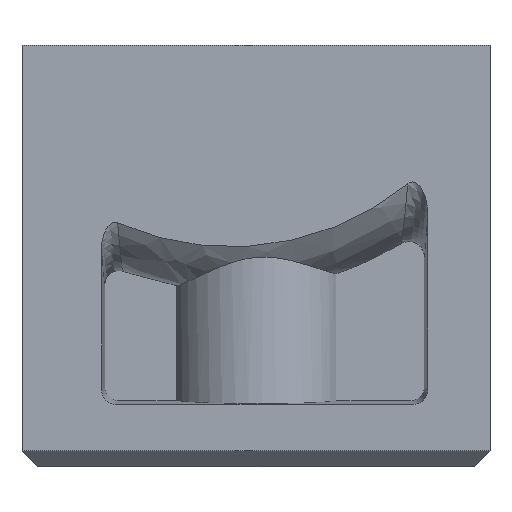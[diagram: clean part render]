
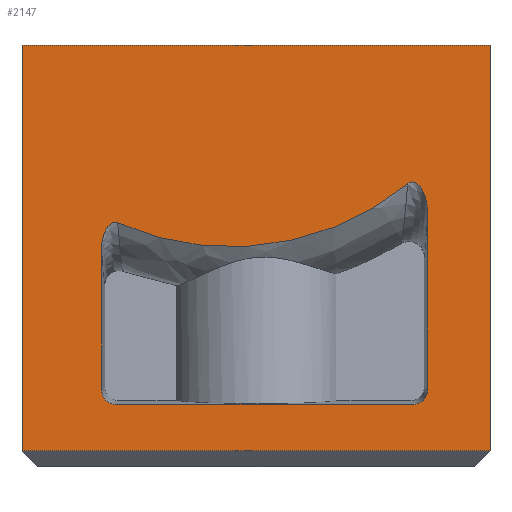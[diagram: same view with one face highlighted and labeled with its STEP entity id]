
A CAD part, front view. The second image highlights one B-rep face of the part: STEP entity #2147.
In plain terms, the highlighted planar face has unit normal (0, -1, 0).
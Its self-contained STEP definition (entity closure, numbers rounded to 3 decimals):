
#165=DIRECTION('',(-1.,0.,0.));
#166=VECTOR('',#165,30.);
#167=CARTESIAN_POINT('',(26.9,-6.,-21.));
#168=LINE('',#167,#166);
#169=DIRECTION('',(0.,0.,-1.));
#170=VECTOR('',#169,26.);
#171=CARTESIAN_POINT('',(26.9,-6.,5.));
#172=LINE('',#171,#170);
#173=CARTESIAN_POINT('',(3.034,-6.,-6.373));
#174=CARTESIAN_POINT('',(3.01,-6.,-6.362));
#175=CARTESIAN_POINT('',(2.961,-6.,-6.345));
#176=CARTESIAN_POINT('',(2.892,-6.,-6.333));
#177=CARTESIAN_POINT('',(2.824,-6.,-6.333));
#178=CARTESIAN_POINT('',(2.755,-6.,-6.346));
#179=CARTESIAN_POINT('',(2.685,-6.,-6.371));
#180=CARTESIAN_POINT('',(2.613,-6.,-6.411));
#181=CARTESIAN_POINT('',(2.537,-6.,-6.468));
#182=CARTESIAN_POINT('',(2.461,-6.,-6.544));
#183=CARTESIAN_POINT('',(2.384,-6.,-6.639));
#184=CARTESIAN_POINT('',(2.31,-6.,-6.753));
#185=CARTESIAN_POINT('',(2.237,-6.,-6.89));
#186=CARTESIAN_POINT('',(2.167,-6.,-7.05));
#187=CARTESIAN_POINT('',(2.104,-6.,-7.235));
#188=CARTESIAN_POINT('',(2.048,-6.,-7.455));
#189=CARTESIAN_POINT('',(2.01,-6.,-7.703));
#190=CARTESIAN_POINT('',(2.,-6.,-7.874));
#191=CARTESIAN_POINT('',(2.,-6.,-7.963));
#193=DIRECTION('',(0.,0.,-1.));
#194=VECTOR('',#193,9.138);
#195=CARTESIAN_POINT('',(2.,-6.,-7.963));
#196=LINE('',#195,#194);
#197=DIRECTION('',(1.,0.,0.));
#198=VECTOR('',#197,19.102);
#199=CARTESIAN_POINT('',(2.899,-6.,-18.));
#200=LINE('',#199,#198);
#201=DIRECTION('',(0.,0.,1.));
#202=VECTOR('',#201,11.379);
#203=CARTESIAN_POINT('',(22.9,-6.,-17.101));
#204=LINE('',#203,#202);
#209=DIRECTION('',(0.,0.,-1.));
#210=VECTOR('',#209,26.);
#211=CARTESIAN_POINT('',(-3.1,-6.,5.));
#212=LINE('',#211,#210);
#336=DIRECTION('',(-1.,0.,0.));
#337=VECTOR('',#336,30.);
#338=CARTESIAN_POINT('',(26.9,-6.,5.));
#339=LINE('',#338,#337);
#1483=CARTESIAN_POINT('',(3.034,-6.,
-6.373));
#1484=CARTESIAN_POINT('',(3.702,-6.,
-6.671));
#1485=CARTESIAN_POINT('',(5.063,-6.,
-7.181));
#1486=CARTESIAN_POINT('',(7.186,-6.,
-7.691));
#1487=CARTESIAN_POINT('',(9.369,-6.,
-7.938));
#1488=CARTESIAN_POINT('',(11.542,-6.,
-7.916));
#1489=CARTESIAN_POINT('',(13.705,-6.,
-7.633));
#1490=CARTESIAN_POINT('',(15.854,-6.,
-7.076));
#1491=CARTESIAN_POINT('',(17.899,-6.,
-6.268));
#1492=CARTESIAN_POINT('',(19.845,-6.,
-5.21));
#1493=CARTESIAN_POINT('',(21.047,-6.,
-4.352));
#1494=CARTESIAN_POINT('',(21.625,-6.,
-3.883));
#1552=CARTESIAN_POINT('',(21.625,-6.,
-3.883));
#1553=CARTESIAN_POINT('',(21.652,-6.,
-3.861));
#1554=CARTESIAN_POINT('',(21.705,-6.,
-3.824));
#1555=CARTESIAN_POINT('',(21.78,-6.,
-3.786));
#1556=CARTESIAN_POINT('',(21.852,-6.,
-3.762));
#1557=CARTESIAN_POINT('',(21.921,-6.,
-3.752));
#1558=CARTESIAN_POINT('',(21.988,-6.,
-3.753));
#1559=CARTESIAN_POINT('',(22.056,-6.,
-3.766));
#1560=CARTESIAN_POINT('',(22.127,-6.,
-3.792));
#1561=CARTESIAN_POINT('',(22.201,-6.,
-3.834));
#1562=CARTESIAN_POINT('',(22.278,-6.,
-3.893));
#1563=CARTESIAN_POINT('',(22.356,-6.,
-3.971));
#1564=CARTESIAN_POINT('',(22.434,-6.,
-4.068));
#1565=CARTESIAN_POINT('',(22.511,-6.,
-4.185));
#1566=CARTESIAN_POINT('',(22.587,-6.,
-4.323));
#1567=CARTESIAN_POINT('',(22.66,-6.,
-4.483));
#1568=CARTESIAN_POINT('',(22.73,-6.,
-4.67));
#1569=CARTESIAN_POINT('',(22.794,-6.,
-4.883));
#1570=CARTESIAN_POINT('',(22.85,-6.,
-5.132));
#1571=CARTESIAN_POINT('',(22.89,-6.,
-5.416));
#1572=CARTESIAN_POINT('',(22.9,-6.,
-5.617));
#1573=CARTESIAN_POINT('',(22.9,-6.,
-5.722));
#1604=CARTESIAN_POINT('',(22.9,-6.,
-17.101));
#1605=CARTESIAN_POINT('',(22.9,-6.,
-17.182));
#1606=CARTESIAN_POINT('',(22.879,-6.,
-17.336));
#1607=CARTESIAN_POINT('',(22.789,-6.,
-17.556));
#1608=CARTESIAN_POINT('',(22.644,-6.,
-17.744));
#1609=CARTESIAN_POINT('',(22.456,-6.,
-17.889));
#1610=CARTESIAN_POINT('',(22.236,-6.,
-17.979));
#1611=CARTESIAN_POINT('',(22.082,-6.,
-18.));
#1612=CARTESIAN_POINT('',(22.001,-6.,
-18.));
#1640=CARTESIAN_POINT('',(2.899,-6.,
-18.));
#1641=CARTESIAN_POINT('',(2.818,-6.,
-18.));
#1642=CARTESIAN_POINT('',(2.664,-6.,
-17.979));
#1643=CARTESIAN_POINT('',(2.444,-6.,
-17.889));
#1644=CARTESIAN_POINT('',(2.256,-6.,
-17.744));
#1645=CARTESIAN_POINT('',(2.111,-6.,
-17.556));
#1646=CARTESIAN_POINT('',(2.021,-6.,
-17.336));
#1647=CARTESIAN_POINT('',(2.,-6.,
-17.182));
#1648=CARTESIAN_POINT('',(2.,-6.,
-17.101));
#1801=CARTESIAN_POINT('',(-3.1,-6.,-21.));
#1802=VERTEX_POINT('',#1801);
#1805=CARTESIAN_POINT('',(26.9,-6.,-21.));
#1806=VERTEX_POINT('',#1805);
#1807=CARTESIAN_POINT('',(-3.1,-6.,5.));
#1808=VERTEX_POINT('',#1807);
#1809=CARTESIAN_POINT('',(26.9,-6.,5.));
#1810=VERTEX_POINT('',#1809);
#1811=VERTEX_POINT('',#1483);
#1812=VERTEX_POINT('',#1494);
#1813=VERTEX_POINT('',#191);
#1814=CARTESIAN_POINT('',(2.,-6.,
-17.101));
#1815=VERTEX_POINT('',#1814);
#1816=VERTEX_POINT('',#1640);
#1817=CARTESIAN_POINT('',(22.001,-6.,
-18.));
#1818=VERTEX_POINT('',#1817);
#1819=VERTEX_POINT('',#1604);
#1820=CARTESIAN_POINT('',(22.9,-6.,
-5.722));
#1821=VERTEX_POINT('',#1820);
#2115=CARTESIAN_POINT('',(-3.1,-6.,-22.));
#2116=DIRECTION('',(0.,-1.,0.));
#2117=DIRECTION('',(1.,0.,0.));
#2118=AXIS2_PLACEMENT_3D('',#2115,#2116,#2117);
#2119=PLANE('',#2118);
#2120=ORIENTED_EDGE('',*,*,#2109,.T.);
#2122=ORIENTED_EDGE('',*,*,#2121,.F.);
#2124=ORIENTED_EDGE('',*,*,#2123,.F.);
#2126=ORIENTED_EDGE('',*,*,#2125,.T.);
#2127=EDGE_LOOP('',(#2120,#2122,#2124,#2126));
#2128=FACE_OUTER_BOUND('',#2127,.F.);
#2130=ORIENTED_EDGE('',*,*,#2129,.F.);
#2132=ORIENTED_EDGE('',*,*,#2131,.T.);
#2134=ORIENTED_EDGE('',*,*,#2133,.T.);
#2136=ORIENTED_EDGE('',*,*,#2135,.F.);
#2138=ORIENTED_EDGE('',*,*,#2137,.T.);
#2140=ORIENTED_EDGE('',*,*,#2139,.F.);
#2142=ORIENTED_EDGE('',*,*,#2141,.T.);
#2144=ORIENTED_EDGE('',*,*,#2143,.F.);
#2145=EDGE_LOOP('',(#2130,#2132,#2134,#2136,#2138,#2140,#2142,#2144));
#2146=FACE_BOUND('',#2145,.F.);
#192=B_SPLINE_CURVE_WITH_KNOTS('',3,(#173,#174,#175,#176,#177,#178,#179,#180,
#181,#182,#183,#184,#185,#186,#187,#188,#189,#190,#191),.UNSPECIFIED.,.F.,.F.,
(4,1,1,1,1,1,1,1,1,1,1,1,1,1,1,1,4),(0.,0.063,0.125,0.188,0.25,
0.313,0.375,0.438,0.5,0.563,0.625,0.688,0.75,0.813,
0.875,0.938,1.),.UNSPECIFIED.);
#1495=B_SPLINE_CURVE_WITH_KNOTS('',3,(#1483,#1484,#1485,#1486,#1487,#1488,#1489,
#1490,#1491,#1492,#1493,#1494),.UNSPECIFIED.,.F.,.F.,(4,1,1,1,1,1,1,1,1,4),
(0.,0.111,0.222,0.333,0.444,
0.556,0.667,0.778,0.889,1.),
.UNSPECIFIED.);
#1574=B_SPLINE_CURVE_WITH_KNOTS('',3,(#1552,#1553,#1554,#1555,#1556,#1557,#1558,
#1559,#1560,#1561,#1562,#1563,#1564,#1565,#1566,#1567,#1568,#1569,#1570,#1571,
#1572,#1573),.UNSPECIFIED.,.F.,.F.,(4,1,1,1,1,1,1,1,1,1,1,1,1,1,1,1,1,1,1,4),(
0.,0.053,0.105,0.158,0.211,
0.263,0.316,0.368,0.421,
0.474,0.526,0.579,0.632,
0.684,0.737,0.789,0.842,
0.895,0.947,1.),.UNSPECIFIED.);
#1613=B_SPLINE_CURVE_WITH_KNOTS('',3,(#1604,#1605,#1606,#1607,#1608,#1609,#1610,
#1611,#1612),.UNSPECIFIED.,.F.,.F.,(4,1,1,1,1,1,4),(0.,0.167,
0.333,0.5,0.667,0.833,1.),
.UNSPECIFIED.);
#1649=B_SPLINE_CURVE_WITH_KNOTS('',3,(#1640,#1641,#1642,#1643,#1644,#1645,#1646,
#1647,#1648),.UNSPECIFIED.,.F.,.F.,(4,1,1,1,1,1,4),(0.,0.167,
0.333,0.5,0.667,0.833,1.),
.UNSPECIFIED.);
#2109=EDGE_CURVE('',#1806,#1802,#168,.T.);
#2121=EDGE_CURVE('',#1808,#1802,#212,.T.);
#2123=EDGE_CURVE('',#1810,#1808,#339,.T.);
#2125=EDGE_CURVE('',#1810,#1806,#172,.T.);
#2129=EDGE_CURVE('',#1811,#1812,#1495,.T.);
#2131=EDGE_CURVE('',#1811,#1813,#192,.T.);
#2133=EDGE_CURVE('',#1813,#1815,#196,.T.);
#2135=EDGE_CURVE('',#1816,#1815,#1649,.T.);
#2137=EDGE_CURVE('',#1816,#1818,#200,.T.);
#2139=EDGE_CURVE('',#1819,#1818,#1613,.T.);
#2141=EDGE_CURVE('',#1819,#1821,#204,.T.);
#2143=EDGE_CURVE('',#1812,#1821,#1574,.T.);
#2147=ADVANCED_FACE('',(#2128,#2146),#2119,.T.);
